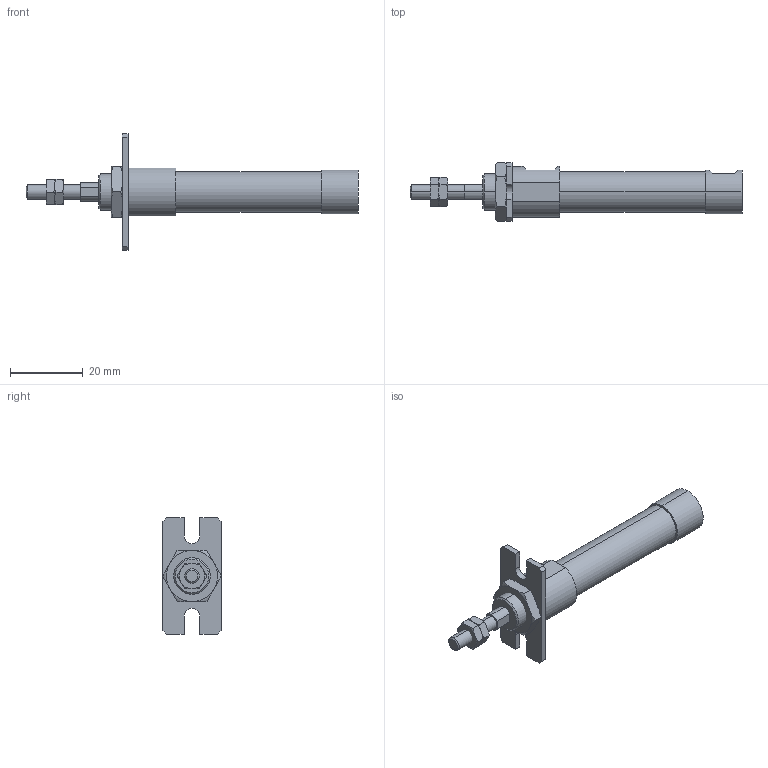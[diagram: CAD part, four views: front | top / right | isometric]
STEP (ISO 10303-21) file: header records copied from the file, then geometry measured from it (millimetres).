
FILE_DESCRIPTION (( 'STEP AP203' ), '1' );
FILE_NAME ('ZGU2-10-15-A.STEP', '2016-03-31T00:50:29', ( '' ), ( '' ), 'SwSTEP 2.0', 'SolidWorks 2014', '' );
FILE_SCHEMA (( 'CONFIG_CONTROL_DESIGN' ));
Length unit declared in the file: millimetre
Products named in the file (5): Z-10-A; ZGU2-10-15; ZGU2-10-15-A
Assembly tree (5 placements, depth 2):
  ZGU2-10-15-A
    ZGU2-10-15
    (unnamed)  x2
    (unnamed)
    Z-10-A
Bounding box: 91 x 16.16 x 32 mm (x, y, z)
Volume: 8539.7 mm3; surface area: 5052.2 mm2
Topology: 5 solids, 5 shells, 129 faces, 292 edges, 178 vertices
Faces by surface type: plane 57, torus 36, cylinder 28, cone 8
Entity records: 3817 total; most frequent: CARTESIAN_POINT 909, DIRECTION 498, ORIENTED_EDGE 480, EDGE_CURVE 240, AXIS2_PLACEMENT_3D 195, VERTEX_POINT 150, EDGE_LOOP 122, VECTOR 108
